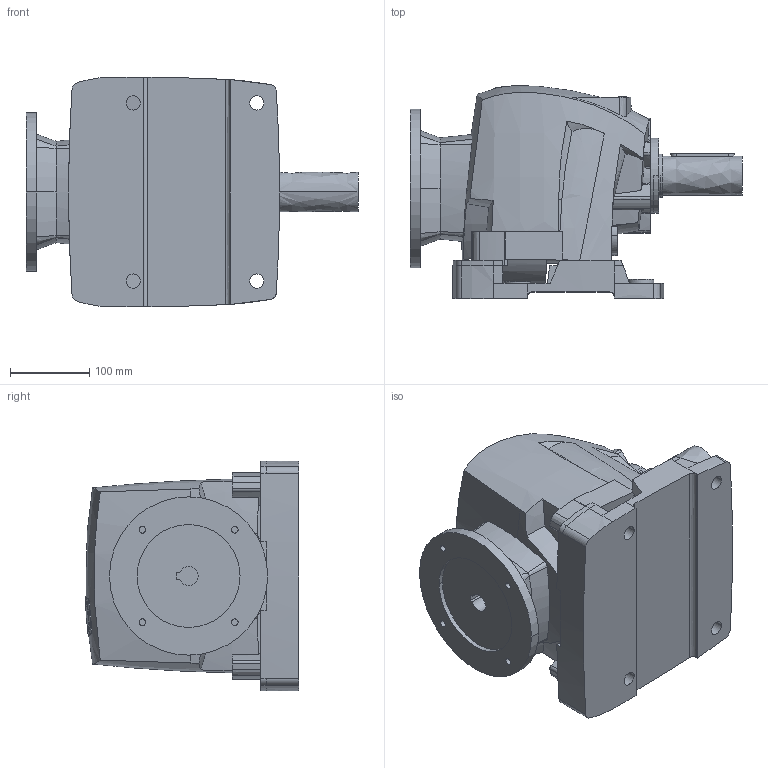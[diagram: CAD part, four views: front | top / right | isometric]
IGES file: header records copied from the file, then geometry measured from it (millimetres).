
Start section:  PTC IGES file: r40_bf_pam90_d2.igs
Global section: file name: r40_bf_pam90_d2.igs; native system: Pro/ENGINEER by Parametric Technology Corporation; preprocessor: 2008230; author: Luca; organization: Unknown; date: 20131127.231921; units: millimetre
Bounding box: 419.5 x 269.38 x 290.23 mm (x, y, z)
Volume: 13395641.3 mm3; surface area: 594363.8 mm2
Topology: 1 solids, 1 shells, 515 faces, 1457 edges, 972 vertices
Faces by surface type: bspline 242, revolution 229, extrusion 44
